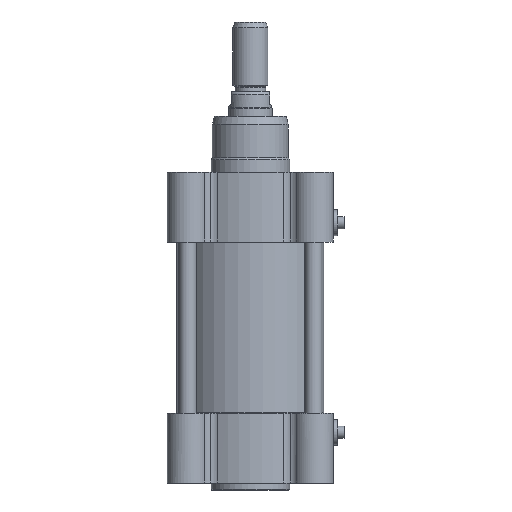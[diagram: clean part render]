
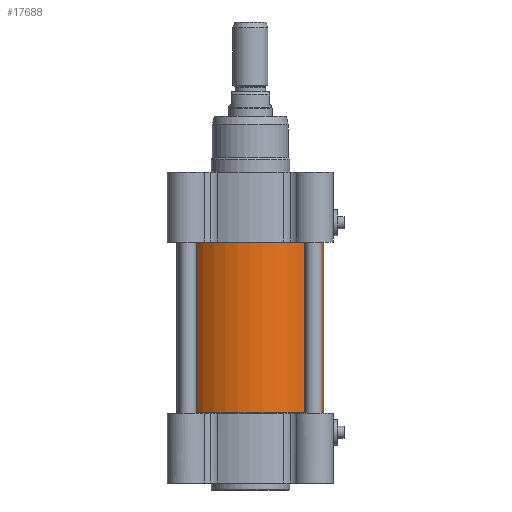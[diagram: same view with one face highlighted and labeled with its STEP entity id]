
A CAD part, front view. The second image highlights one B-rep face of the part: STEP entity #17688.
In plain terms, the highlighted cylindrical face has radius 42 mm (diameter 84 mm), a partial arc.
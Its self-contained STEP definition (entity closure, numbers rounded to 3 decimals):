
#665 = DIRECTION ( 'NONE',  ( -1., 0., 0. ) ) ;
#2484 = VERTEX_POINT ( 'NONE', #15382 ) ;
#2656 = CARTESIAN_POINT ( 'NONE',  ( 0., 0., 0. ) ) ;
#4883 = EDGE_CURVE ( 'NONE', #9964, #2484, #20760, .T. ) ;
#6159 = LINE ( 'NONE', #8721, #6775 ) ;
#6276 = CYLINDRICAL_SURFACE ( 'NONE', #13941, 42. ) ;
#6386 = ORIENTED_EDGE ( 'NONE', *, *, #4883, .T. ) ;
#6767 = CARTESIAN_POINT ( 'NONE',  ( -42., 0., 97.8 ) ) ;
#6775 = VECTOR ( 'NONE', #23350, 1000. ) ;
#7796 = ORIENTED_EDGE ( 'NONE', *, *, #10376, .F. ) ;
#8133 = DIRECTION ( 'NONE',  ( -1., 0., 0. ) ) ;
#8721 = CARTESIAN_POINT ( 'NONE',  ( -42., 0., 0. ) ) ;
#8833 = EDGE_LOOP ( 'NONE', ( #22090, #6386, #7796, #26943 ) ) ;
#9774 = CARTESIAN_POINT ( 'NONE',  ( 0., 0., 0.2 ) ) ;
#9964 = VERTEX_POINT ( 'NONE', #18951 ) ;
#10376 = EDGE_CURVE ( 'NONE', #14308, #2484, #24566, .T. ) ;
#10887 = VECTOR ( 'NONE', #27290, 1000. ) ;
#11074 = DIRECTION ( 'NONE',  ( 0., 0., 1. ) ) ;
#11080 = EDGE_CURVE ( 'NONE', #9964, #12614, #26404, .T. ) ;
#11203 = FACE_OUTER_BOUND ( 'NONE', #8833, .T. ) ;
#11268 = DIRECTION ( 'NONE',  ( 0., 0., 1. ) ) ;
#11798 = CARTESIAN_POINT ( 'NONE',  ( 42., 0., 0. ) ) ;
#12614 = VERTEX_POINT ( 'NONE', #14297 ) ;
#13463 = DIRECTION ( 'NONE',  ( 0., 0., -1. ) ) ;
#13941 = AXIS2_PLACEMENT_3D ( 'NONE', #2656, #11074, #8133 ) ;
#14297 = CARTESIAN_POINT ( 'NONE',  ( -42., 0., 0.2 ) ) ;
#14308 = VERTEX_POINT ( 'NONE', #6767 ) ;
#15382 = CARTESIAN_POINT ( 'NONE',  ( 42., 0., 97.8 ) ) ;
#17688 = ADVANCED_FACE ( 'NONE', ( #11203 ), #6276, .T. ) ;
#18951 = CARTESIAN_POINT ( 'NONE',  ( 42., 0., 0.2 ) ) ;
#19931 = DIRECTION ( 'NONE',  ( -1., 0., 0. ) ) ;
#20760 = LINE ( 'NONE', #11798, #10887 ) ;
#20790 = EDGE_CURVE ( 'NONE', #12614, #14308, #6159, .T. ) ;
#22077 = CARTESIAN_POINT ( 'NONE',  ( 0., 0., 97.8 ) ) ;
#22090 = ORIENTED_EDGE ( 'NONE', *, *, #11080, .F. ) ;
#23249 = AXIS2_PLACEMENT_3D ( 'NONE', #9774, #13463, #665 ) ;
#23350 = DIRECTION ( 'NONE',  ( 0., 0., 1. ) ) ;
#24566 = CIRCLE ( 'NONE', #26843, 42. ) ;
#26404 = CIRCLE ( 'NONE', #23249, 42. ) ;
#26843 = AXIS2_PLACEMENT_3D ( 'NONE', #22077, #11268, #19931 ) ;
#26943 = ORIENTED_EDGE ( 'NONE', *, *, #20790, .F. ) ;
#27290 = DIRECTION ( 'NONE',  ( 0., 0., 1. ) ) ;
